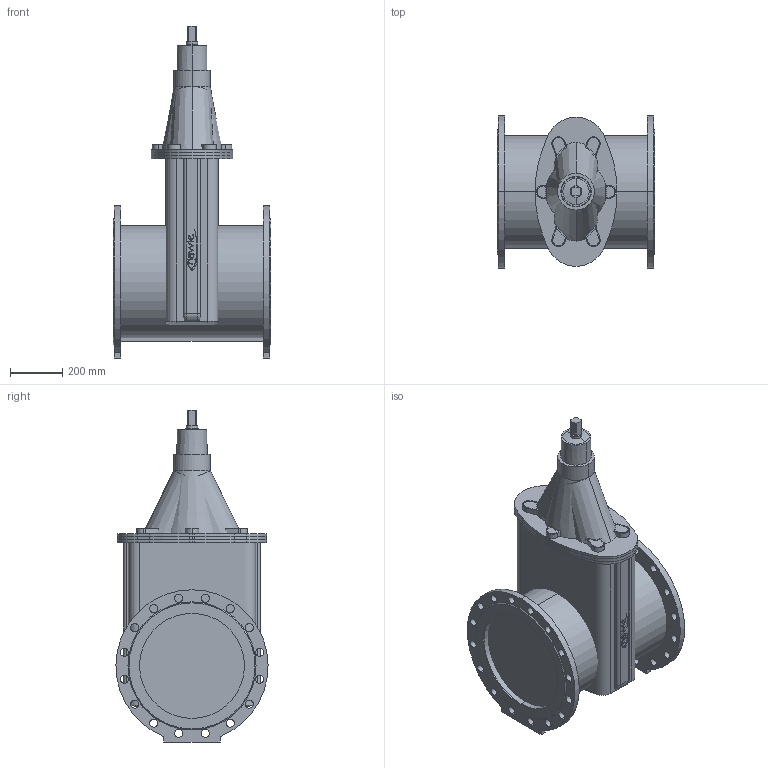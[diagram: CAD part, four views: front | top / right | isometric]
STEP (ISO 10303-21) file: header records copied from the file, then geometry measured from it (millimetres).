
FILE_DESCRIPTION(('STEP AP214'),'1');
FILE_NAME('S:/EK/USER/CAT6/3DHomepage/4700E2/4700E2-PN16-DN400.STP','2012-04-23T14:51:40',(' '),(' '),'Spatial InterOp 3D',' ',' ');
FILE_SCHEMA(('automotive_design'));
Length unit declared in the file: millimetre
Products named in the file (50): 3D-Objekt
Bounding box: 600 x 579.91 x 1265 mm (x, y, z)
Volume: 169827455.4 mm3; surface area: 5040566.3 mm2
Topology: 50 solids, 50 shells, 516 faces, 1242 edges, 828 vertices
Faces by surface type: plane 248, cylinder 244, cone 14, torus 6, bspline 4
Entity records: 20712 total; most frequent: DIRECTION 2908, CARTESIAN_POINT 2704, ORIENTED_EDGE 2484, EDGE_CURVE 1242, AXIS2_PLACEMENT_3D 1104, VERTEX_POINT 828, LINE 700, VECTOR 700
